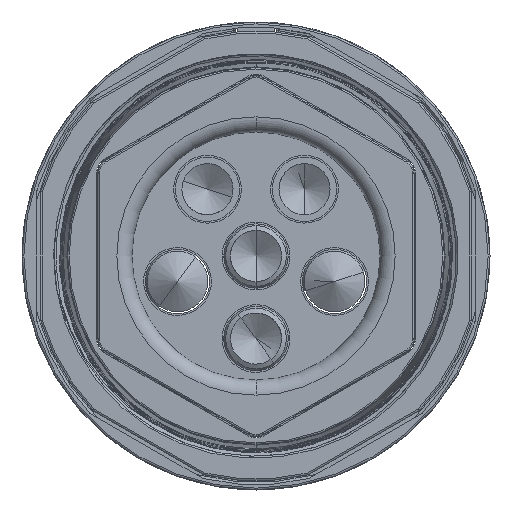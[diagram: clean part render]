
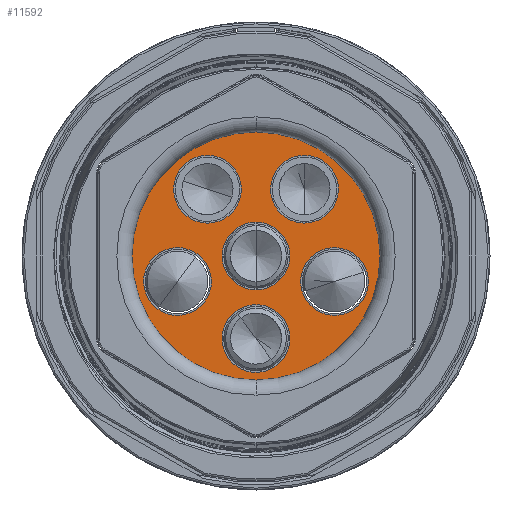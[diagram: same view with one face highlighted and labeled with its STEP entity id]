
A CAD part, front view. The second image highlights one B-rep face of the part: STEP entity #11592.
In plain terms, the highlighted planar face has unit normal (0, -1, 0).
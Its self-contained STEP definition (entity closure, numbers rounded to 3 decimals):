
#11315=CARTESIAN_POINT('',(0.,-16.299,0.));
#11316=DIRECTION('',(0.,1.,0.));
#11317=DIRECTION('',(0.,0.,-1.));
#11318=AXIS2_PLACEMENT_3D('',#11315,#11316,#11317);
#11320=CARTESIAN_POINT('',(0.,-16.299,0.));
#11321=DIRECTION('',(0.,1.,0.));
#11322=DIRECTION('',(0.,0.,1.));
#11323=AXIS2_PLACEMENT_3D('',#11320,#11321,#11322);
#11325=CARTESIAN_POINT('',(-6.407,-16.299,
8.818));
#11326=DIRECTION('',(0.,-1.,0.));
#11327=DIRECTION('',(1.,0.,0.));
#11328=AXIS2_PLACEMENT_3D('',#11325,#11326,#11327);
#11330=CARTESIAN_POINT('',(-6.407,-16.299,
8.818));
#11331=DIRECTION('',(0.,-1.,0.));
#11332=DIRECTION('',(-1.,0.,0.));
#11333=AXIS2_PLACEMENT_3D('',#11330,#11331,#11332);
#11335=CARTESIAN_POINT('',(6.407,-16.299,
8.818));
#11336=DIRECTION('',(0.,-1.,0.));
#11337=DIRECTION('',(0.309,0.,-0.951));
#11338=AXIS2_PLACEMENT_3D('',#11335,#11336,#11337);
#11340=CARTESIAN_POINT('',(6.407,-16.299,
8.818));
#11341=DIRECTION('',(0.,-1.,0.));
#11342=DIRECTION('',(-0.309,0.,0.951));
#11343=AXIS2_PLACEMENT_3D('',#11340,#11341,#11342);
#11345=CARTESIAN_POINT('',(10.367,-16.299,
-3.368));
#11346=DIRECTION('',(0.,-1.,0.));
#11347=DIRECTION('',(-0.809,0.,-0.588));
#11348=AXIS2_PLACEMENT_3D('',#11345,#11346,#11347);
#11350=CARTESIAN_POINT('',(10.367,-16.299,
-3.368));
#11351=DIRECTION('',(0.,-1.,0.));
#11352=DIRECTION('',(0.809,0.,0.588));
#11353=AXIS2_PLACEMENT_3D('',#11350,#11351,#11352);
#11355=CARTESIAN_POINT('',(0.,-16.299,-10.9));
#11356=DIRECTION('',(0.,-1.,0.));
#11357=DIRECTION('',(-0.809,0.,0.588));
#11358=AXIS2_PLACEMENT_3D('',#11355,#11356,#11357);
#11360=CARTESIAN_POINT('',(0.,-16.299,-10.9));
#11361=DIRECTION('',(0.,-1.,0.));
#11362=DIRECTION('',(0.809,0.,-0.588));
#11363=AXIS2_PLACEMENT_3D('',#11360,#11361,#11362);
#11365=CARTESIAN_POINT('',(-10.367,-16.299,
-3.368));
#11366=DIRECTION('',(0.,-1.,0.));
#11367=DIRECTION('',(0.309,0.,0.951));
#11368=AXIS2_PLACEMENT_3D('',#11365,#11366,#11367);
#11370=CARTESIAN_POINT('',(-10.367,-16.299,
-3.368));
#11371=DIRECTION('',(0.,-1.,0.));
#11372=DIRECTION('',(-0.309,0.,-0.951));
#11373=AXIS2_PLACEMENT_3D('',#11370,#11371,#11372);
#11375=CARTESIAN_POINT('',(0.,-16.299,0.));
#11376=DIRECTION('',(0.,1.,0.));
#11377=DIRECTION('',(0.,0.,-1.));
#11378=AXIS2_PLACEMENT_3D('',#11375,#11376,#11377);
#11380=CARTESIAN_POINT('',(0.,-16.299,0.));
#11381=DIRECTION('',(0.,1.,0.));
#11382=DIRECTION('',(0.,0.,1.));
#11383=AXIS2_PLACEMENT_3D('',#11380,#11381,#11382);
#11497=CARTESIAN_POINT('',(-1.932,-16.299,
8.818));
#11498=CARTESIAN_POINT('',(-10.882,-16.299,
8.818));
#11499=VERTEX_POINT('',#11497);
#11500=VERTEX_POINT('',#11498);
#11505=CARTESIAN_POINT('',(7.79,-16.299,
4.562));
#11506=VERTEX_POINT('',#11505);
#11507=CARTESIAN_POINT('',(5.024,-16.299,
13.074));
#11508=VERTEX_POINT('',#11507);
#11525=CARTESIAN_POINT('',(0.,-16.299,16.716));
#11526=CARTESIAN_POINT('',(0.,-16.299,-16.716));
#11527=VERTEX_POINT('',#11525);
#11528=VERTEX_POINT('',#11526);
#11529=CARTESIAN_POINT('',(0.,-16.299,-4.475));
#11530=CARTESIAN_POINT('',(0.,-16.299,4.475));
#11531=VERTEX_POINT('',#11529);
#11532=VERTEX_POINT('',#11530);
#11533=CARTESIAN_POINT('',(6.746,-16.299,
-5.999));
#11534=VERTEX_POINT('',#11533);
#11535=CARTESIAN_POINT('',(13.987,-16.299,
-0.738));
#11536=VERTEX_POINT('',#11535);
#11537=CARTESIAN_POINT('',(-3.62,-16.299,
-8.27));
#11538=VERTEX_POINT('',#11537);
#11539=CARTESIAN_POINT('',(3.62,-16.299,
-13.53));
#11540=VERTEX_POINT('',#11539);
#11541=CARTESIAN_POINT('',(-8.984,-16.299,
0.888));
#11542=VERTEX_POINT('',#11541);
#11543=CARTESIAN_POINT('',(-11.749,-16.299,
-7.624));
#11544=VERTEX_POINT('',#11543);
#11545=CARTESIAN_POINT('',(0.,-16.299,0.));
#11546=DIRECTION('',(0.,1.,0.));
#11547=DIRECTION('',(0.,0.,1.));
#11548=AXIS2_PLACEMENT_3D('',#11545,#11546,#11547);
#11549=PLANE('',#11548);
#11551=ORIENTED_EDGE('',*,*,#11550,.T.);
#11553=ORIENTED_EDGE('',*,*,#11552,.T.);
#11554=EDGE_LOOP('',(#11551,#11553));
#11555=FACE_OUTER_BOUND('',#11554,.F.);
#11557=ORIENTED_EDGE('',*,*,#11556,.T.);
#11559=ORIENTED_EDGE('',*,*,#11558,.T.);
#11560=EDGE_LOOP('',(#11557,#11559));
#11561=FACE_BOUND('',#11560,.F.);
#11563=ORIENTED_EDGE('',*,*,#11562,.T.);
#11565=ORIENTED_EDGE('',*,*,#11564,.T.);
#11566=EDGE_LOOP('',(#11563,#11565));
#11567=FACE_BOUND('',#11566,.F.);
#11569=ORIENTED_EDGE('',*,*,#11568,.T.);
#11571=ORIENTED_EDGE('',*,*,#11570,.T.);
#11572=EDGE_LOOP('',(#11569,#11571));
#11573=FACE_BOUND('',#11572,.F.);
#11575=ORIENTED_EDGE('',*,*,#11574,.T.);
#11577=ORIENTED_EDGE('',*,*,#11576,.T.);
#11578=EDGE_LOOP('',(#11575,#11577));
#11579=FACE_BOUND('',#11578,.F.);
#11581=ORIENTED_EDGE('',*,*,#11580,.T.);
#11583=ORIENTED_EDGE('',*,*,#11582,.T.);
#11584=EDGE_LOOP('',(#11581,#11583));
#11585=FACE_BOUND('',#11584,.F.);
#11587=ORIENTED_EDGE('',*,*,#11586,.F.);
#11589=ORIENTED_EDGE('',*,*,#11588,.F.);
#11590=EDGE_LOOP('',(#11587,#11589));
#11591=FACE_BOUND('',#11590,.F.);
#11592=ADVANCED_FACE('',(#11555,#11561,#11567,#11573,#11579,#11585,#11591),
#11549,.F.);
#11319=CIRCLE('',#11318,16.716);
#11324=CIRCLE('',#11323,16.716);
#11329=CIRCLE('',#11328,4.475);
#11334=CIRCLE('',#11333,4.475);
#11339=CIRCLE('',#11338,4.475);
#11344=CIRCLE('',#11343,4.475);
#11349=CIRCLE('',#11348,4.475);
#11354=CIRCLE('',#11353,4.475);
#11359=CIRCLE('',#11358,4.475);
#11364=CIRCLE('',#11363,4.475);
#11369=CIRCLE('',#11368,4.475);
#11374=CIRCLE('',#11373,4.475);
#11379=CIRCLE('',#11378,4.475);
#11384=CIRCLE('',#11383,4.475);
#11550=EDGE_CURVE('',#11528,#11527,#11319,.T.);
#11552=EDGE_CURVE('',#11527,#11528,#11324,.T.);
#11556=EDGE_CURVE('',#11499,#11500,#11329,.T.);
#11558=EDGE_CURVE('',#11500,#11499,#11334,.T.);
#11562=EDGE_CURVE('',#11506,#11508,#11339,.T.);
#11564=EDGE_CURVE('',#11508,#11506,#11344,.T.);
#11568=EDGE_CURVE('',#11534,#11536,#11349,.T.);
#11570=EDGE_CURVE('',#11536,#11534,#11354,.T.);
#11574=EDGE_CURVE('',#11538,#11540,#11359,.T.);
#11576=EDGE_CURVE('',#11540,#11538,#11364,.T.);
#11580=EDGE_CURVE('',#11542,#11544,#11369,.T.);
#11582=EDGE_CURVE('',#11544,#11542,#11374,.T.);
#11586=EDGE_CURVE('',#11531,#11532,#11379,.T.);
#11588=EDGE_CURVE('',#11532,#11531,#11384,.T.);
